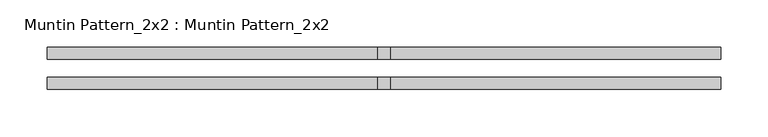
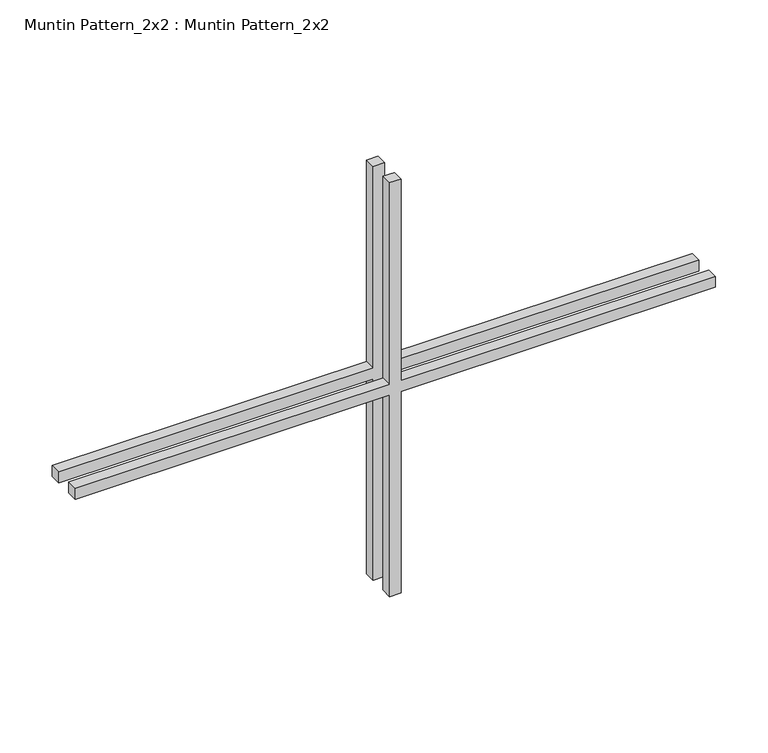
"""IFC4 building model written with IfcOpenShell, lengths in millimetres: proxy geometry, Muntin Pattern_2x2 : Muntin Pattern_2x2."""

from ifc_helpers import new_model, si_unit, frame, origin, place, context, project, spatial, polyline, outline, extrude, source, transform, mapped, element, save


def muntin_pattern_2x2_muntin_pattern_2x2_c461390f(model_context):
    return source(origin(), model_context, "Body", "SweptSolid", [
        extrude(outline(polyline([(249.2375, -6.35), (249.2375, -355.6), (236.5375, -355.6), (236.5375, -6.35), (0.0, -6.35), (0.0, 6.35), (236.5375, 6.35), (236.5375, 355.6), (249.2375, 355.6), (249.2375, 6.35), (485.775, 6.35), (485.775, -6.35), (249.2375, -6.35)])), frame((0.0, 9.525, 0.0), z_axis=(0.0, 1.0, 0.0), x_axis=(0.0, 0.0, 1.0)), (0.0, 0.0, 1.0), 12.7),
        extrude(outline(polyline([(249.2375, -6.35), (249.2375, -355.6), (236.5375, -355.6), (236.5375, -6.35), (0.0, -6.35), (0.0, 6.35), (236.5375, 6.35), (236.5375, 355.6), (249.2375, 355.6), (249.2375, 6.35), (485.775, 6.35), (485.775, -6.35), (249.2375, -6.35)])), frame((0.0, -22.225, 0.0), z_axis=(0.0, 1.0, 0.0), x_axis=(0.0, 0.0, 1.0)), (0.0, 0.0, 1.0), 12.7),
    ])


if __name__ == "__main__":
    model = new_model("IFC4")
    model_context = context("Model", 3, world=origin())
    ifc_project = project(units=[si_unit("LENGTHUNIT", "METRE", prefix="MILLI")], contexts=[model_context])
    site = spatial("IfcSite", under=ifc_project)
    building = spatial("IfcBuilding", under=site)
    placement = place(None, origin())
    muntin_pattern_2x2_muntin_pattern_2x2_shape = muntin_pattern_2x2_muntin_pattern_2x2_c461390f(model_context)
    element("IfcBuildingElementProxy", 1, Name="Muntin Pattern_2x2 : Muntin Pattern_2x2", ObjectType="Muntin Pattern_2x2 : Muntin Pattern_2x2", at=placement, inside=building, context=model_context, shape_type="MappedRepresentation", body=[
        mapped(muntin_pattern_2x2_muntin_pattern_2x2_shape, transform((0.0, 0.0, 0.0), x_axis=(1.0, 0.0, 0.0), y_axis=(0.0, 1.0, 0.0), z_axis=(0.0, 0.0, 1.0))),
    ])
    save(model, "model.ifc")
